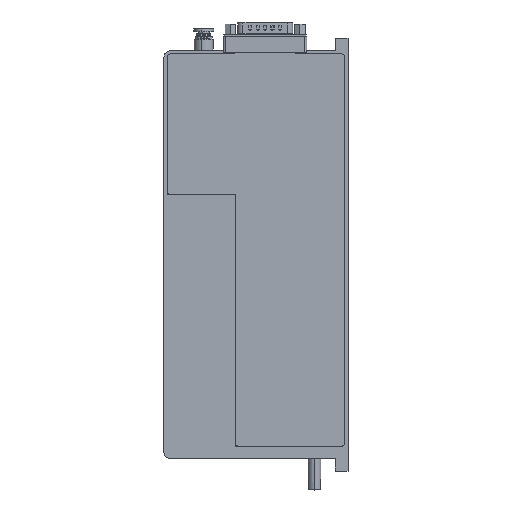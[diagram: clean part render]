
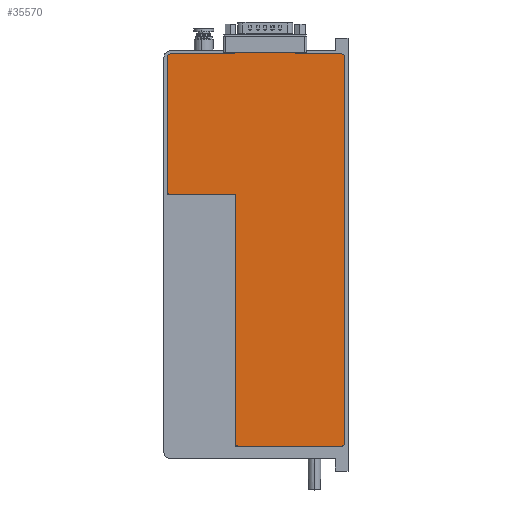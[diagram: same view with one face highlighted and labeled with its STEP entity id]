
A CAD part, top view. The second image highlights one B-rep face of the part: STEP entity #35570.
In plain terms, the highlighted planar face has unit normal (0, 0, 1).
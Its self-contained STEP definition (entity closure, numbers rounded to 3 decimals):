
#152 = VERTEX_POINT ( 'NONE', #269 ) ;
#269 = CARTESIAN_POINT ( 'NONE',  ( -10.143, 93.75, 1. ) ) ;
#409 = CARTESIAN_POINT ( 'NONE',  ( -10.143, 94.25, 1. ) ) ;
#563 = VERTEX_POINT ( 'NONE', #35577 ) ;
#698 = CARTESIAN_POINT ( 'NONE',  ( 0., 94.25, 1. ) ) ;
#744 = DIRECTION ( 'NONE',  ( -1., 0., 0. ) ) ;
#1059 = VECTOR ( 'NONE', #7710, 1000. ) ;
#1440 = DIRECTION ( 'NONE',  ( 1., 0., 0. ) ) ;
#1972 = CARTESIAN_POINT ( 'NONE',  ( -42.5, 92.25, 1. ) ) ;
#2560 = CIRCLE ( 'NONE', #6139, 1.5 ) ;
#3155 = DIRECTION ( 'NONE',  ( 0., 0., -1. ) ) ;
#3537 = EDGE_CURVE ( 'NONE', #34880, #21789, #2560, .T. ) ;
#3884 = AXIS2_PLACEMENT_3D ( 'NONE', #15124, #23966, #52329 ) ;
#4040 = ORIENTED_EDGE ( 'NONE', *, *, #43958, .F. ) ;
#4244 = ORIENTED_EDGE ( 'NONE', *, *, #17242, .T. ) ;
#4887 = CARTESIAN_POINT ( 'NONE',  ( -10., 26.55, 1. ) ) ;
#6139 = AXIS2_PLACEMENT_3D ( 'NONE', #30933, #35396, #13180 ) ;
#6370 = DIRECTION ( 'NONE',  ( -1., 0., 0. ) ) ;
#6689 = LINE ( 'NONE', #53784, #42175 ) ;
#7233 = CIRCLE ( 'NONE', #21325, 1.5 ) ;
#7582 = CARTESIAN_POINT ( 'NONE',  ( -10., 26.55, 1. ) ) ;
#7710 = DIRECTION ( 'NONE',  ( 0., 1., 0. ) ) ;
#7859 = ORIENTED_EDGE ( 'NONE', *, *, #40281, .T. ) ;
#8328 = LINE ( 'NONE', #29670, #36914 ) ;
#8487 = VECTOR ( 'NONE', #16908, 1000. ) ;
#8629 = CARTESIAN_POINT ( 'NONE',  ( -42.5, -93.75, 1. ) ) ;
#9938 = ORIENTED_EDGE ( 'NONE', *, *, #51438, .T. ) ;
#10327 = LINE ( 'NONE', #698, #18997 ) ;
#13180 = DIRECTION ( 'NONE',  ( 1., 0., 0. ) ) ;
#13288 = CARTESIAN_POINT ( 'NONE',  ( 42.5, -92.25, 1. ) ) ;
#13723 = ORIENTED_EDGE ( 'NONE', *, *, #25561, .T. ) ;
#13826 = LINE ( 'NONE', #8629, #16373 ) ;
#14442 = CIRCLE ( 'NONE', #3884, 1.5 ) ;
#14975 = ORIENTED_EDGE ( 'NONE', *, *, #51272, .T. ) ;
#15085 = CARTESIAN_POINT ( 'NONE',  ( -42.5, 28.05, 1. ) ) ;
#15124 = CARTESIAN_POINT ( 'NONE',  ( 41., 92.25, 1. ) ) ;
#15747 = ORIENTED_EDGE ( 'NONE', *, *, #3537, .F. ) ;
#16373 = VECTOR ( 'NONE', #1440, 1000. ) ;
#16637 = LINE ( 'NONE', #47199, #8487 ) ;
#16908 = DIRECTION ( 'NONE',  ( 1., 0., 0. ) ) ;
#17242 = EDGE_CURVE ( 'NONE', #32219, #152, #53529, .T. ) ;
#18826 = VERTEX_POINT ( 'NONE', #51102 ) ;
#18997 = VECTOR ( 'NONE', #31114, 1000. ) ;
#19100 = EDGE_CURVE ( 'NONE', #152, #51956, #8328, .T. ) ;
#19256 = CARTESIAN_POINT ( 'NONE',  ( -41., 93.75, 1. ) ) ;
#19375 = DIRECTION ( 'NONE',  ( 0., 1., 0. ) ) ;
#19402 = VERTEX_POINT ( 'NONE', #19854 ) ;
#19854 = CARTESIAN_POINT ( 'NONE',  ( -10., -93.75, 1. ) ) ;
#19933 = CARTESIAN_POINT ( 'NONE',  ( -10.143, 123.324, 1. ) ) ;
#20621 = CARTESIAN_POINT ( 'NONE',  ( -41., 92.25, 1. ) ) ;
#20635 = VECTOR ( 'NONE', #32980, 1000. ) ;
#21325 = AXIS2_PLACEMENT_3D ( 'NONE', #24692, #3155, #36954 ) ;
#21387 = CARTESIAN_POINT ( 'NONE',  ( -42.5, -93.75, 1. ) ) ;
#21789 = VERTEX_POINT ( 'NONE', #15085 ) ;
#22549 = ORIENTED_EDGE ( 'NONE', *, *, #23108, .T. ) ;
#22648 = EDGE_CURVE ( 'NONE', #41961, #23157, #7233, .T. ) ;
#23108 = EDGE_CURVE ( 'NONE', #41961, #52820, #49876, .T. ) ;
#23157 = VERTEX_POINT ( 'NONE', #34835 ) ;
#23966 = DIRECTION ( 'NONE',  ( 0., 0., -1. ) ) ;
#24008 = PLANE ( 'NONE',  #38962 ) ;
#24096 = ORIENTED_EDGE ( 'NONE', *, *, #41885, .T. ) ;
#24692 = CARTESIAN_POINT ( 'NONE',  ( 41., -92.25, 1. ) ) ;
#25023 = LINE ( 'NONE', #21387, #26490 ) ;
#25561 = EDGE_CURVE ( 'NONE', #43573, #19402, #30093, .T. ) ;
#26490 = VECTOR ( 'NONE', #46978, 1000. ) ;
#26764 = DIRECTION ( 'NONE',  ( 0., 0., -1. ) ) ;
#27908 = CARTESIAN_POINT ( 'NONE',  ( -41., 26.55, 1. ) ) ;
#28391 = ORIENTED_EDGE ( 'NONE', *, *, #54291, .T. ) ;
#29646 = CIRCLE ( 'NONE', #41196, 1.5 ) ;
#29670 = CARTESIAN_POINT ( 'NONE',  ( -42.5, 93.75, 1. ) ) ;
#30093 = LINE ( 'NONE', #4887, #49416 ) ;
#30290 = ORIENTED_EDGE ( 'NONE', *, *, #31780, .F. ) ;
#30933 = CARTESIAN_POINT ( 'NONE',  ( -41., 28.05, 1. ) ) ;
#31114 = DIRECTION ( 'NONE',  ( 1., 0., 0. ) ) ;
#31695 = LINE ( 'NONE', #53061, #50812 ) ;
#31780 = EDGE_CURVE ( 'NONE', #43707, #51956, #29646, .T. ) ;
#32161 = ORIENTED_EDGE ( 'NONE', *, *, #19100, .T. ) ;
#32219 = VERTEX_POINT ( 'NONE', #409 ) ;
#32368 = FACE_OUTER_BOUND ( 'NONE', #48960, .T. ) ;
#32980 = DIRECTION ( 'NONE',  ( 0., -1., 0. ) ) ;
#34835 = CARTESIAN_POINT ( 'NONE',  ( 41., -93.75, 1. ) ) ;
#34880 = VERTEX_POINT ( 'NONE', #27908 ) ;
#35396 = DIRECTION ( 'NONE',  ( 0., 0., -1. ) ) ;
#35476 = CARTESIAN_POINT ( 'NONE',  ( 0., 0., 1. ) ) ;
#35570 = ADVANCED_FACE ( 'N', ( #32368 ), #24008, .F. ) ;
#35577 = CARTESIAN_POINT ( 'NONE',  ( 18.914, 94.25, 1. ) ) ;
#36567 = CARTESIAN_POINT ( 'NONE',  ( 42.5, -93.75, 1. ) ) ;
#36754 = VERTEX_POINT ( 'NONE', #37049 ) ;
#36914 = VECTOR ( 'NONE', #46595, 1000. ) ;
#36954 = DIRECTION ( 'NONE',  ( -1., 0., 0. ) ) ;
#37049 = CARTESIAN_POINT ( 'NONE',  ( 18.914, 93.75, 1. ) ) ;
#38962 = AXIS2_PLACEMENT_3D ( 'NONE', #35476, #52369, #6370 ) ;
#39265 = DIRECTION ( 'NONE',  ( 0., -1., 0. ) ) ;
#39800 = DIRECTION ( 'NONE',  ( -1., 0., 0. ) ) ;
#39905 = ORIENTED_EDGE ( 'NONE', *, *, #45739, .F. ) ;
#40281 = EDGE_CURVE ( 'NONE', #18826, #36754, #31695, .T. ) ;
#41196 = AXIS2_PLACEMENT_3D ( 'NONE', #20621, #26764, #744 ) ;
#41885 = EDGE_CURVE ( 'NONE', #19402, #23157, #13826, .T. ) ;
#41961 = VERTEX_POINT ( 'NONE', #13288 ) ;
#42175 = VECTOR ( 'NONE', #19375, 1000. ) ;
#43573 = VERTEX_POINT ( 'NONE', #7582 ) ;
#43707 = VERTEX_POINT ( 'NONE', #1972 ) ;
#43958 = EDGE_CURVE ( 'NONE', #18826, #52820, #14442, .T. ) ;
#45739 = EDGE_CURVE ( 'NONE', #32219, #563, #10327, .T. ) ;
#46382 = CARTESIAN_POINT ( 'NONE',  ( 42.5, 92.25, 1. ) ) ;
#46595 = DIRECTION ( 'NONE',  ( -1., 0., 0. ) ) ;
#46978 = DIRECTION ( 'NONE',  ( 0., -1., 0. ) ) ;
#47199 = CARTESIAN_POINT ( 'NONE',  ( -42.5, 26.55, 1. ) ) ;
#47818 = ORIENTED_EDGE ( 'NONE', *, *, #22648, .F. ) ;
#48960 = EDGE_LOOP ( 'NONE', ( #13723, #24096, #47818, #22549, #4040, #7859, #9938, #39905, #4244, #32161, #30290, #28391, #15747, #14975 ) ) ;
#49416 = VECTOR ( 'NONE', #39265, 1000. ) ;
#49876 = LINE ( 'NONE', #36567, #1059 ) ;
#50812 = VECTOR ( 'NONE', #39800, 1000. ) ;
#51102 = CARTESIAN_POINT ( 'NONE',  ( 41., 93.75, 1. ) ) ;
#51272 = EDGE_CURVE ( 'NONE', #34880, #43573, #16637, .T. ) ;
#51438 = EDGE_CURVE ( 'NONE', #36754, #563, #6689, .T. ) ;
#51956 = VERTEX_POINT ( 'NONE', #19256 ) ;
#52329 = DIRECTION ( 'NONE',  ( -1., 0., 0. ) ) ;
#52369 = DIRECTION ( 'NONE',  ( 0., 0., -1. ) ) ;
#52820 = VERTEX_POINT ( 'NONE', #46382 ) ;
#53061 = CARTESIAN_POINT ( 'NONE',  ( -42.5, 93.75, 1. ) ) ;
#53529 = LINE ( 'NONE', #19933, #20635 ) ;
#53784 = CARTESIAN_POINT ( 'NONE',  ( 18.914, 123.324, 1. ) ) ;
#54291 = EDGE_CURVE ( 'NONE', #43707, #21789, #25023, .T. ) ;
